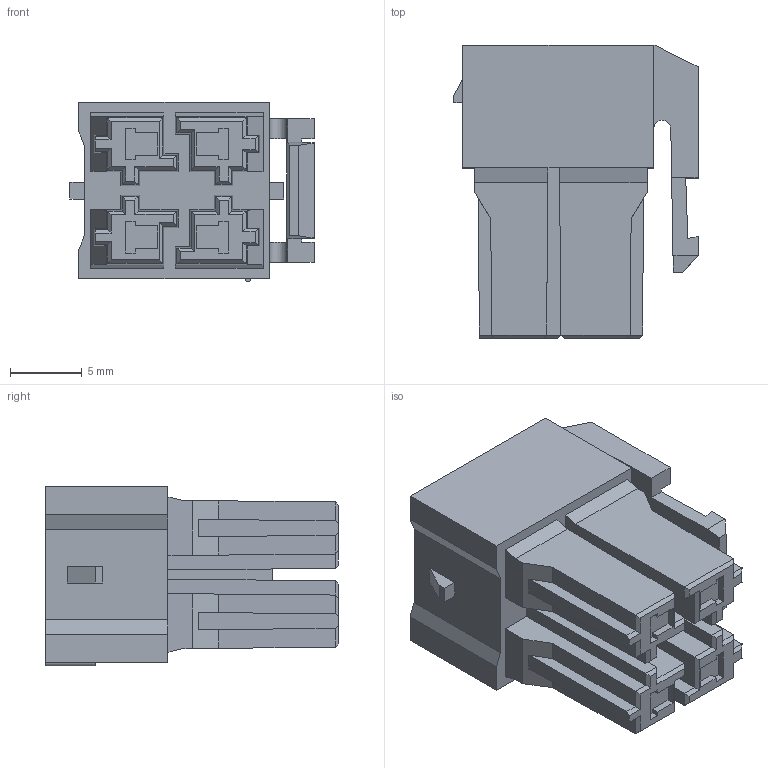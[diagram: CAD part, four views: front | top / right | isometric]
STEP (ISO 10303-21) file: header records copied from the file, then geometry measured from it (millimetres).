
FILE_DESCRIPTION (( 'STEP AP214' ), '1' );
FILE_NAME ('HC-VYH-2x2Y-05（6.50 双排 带扣孔座-HCTL）.STEP', '2024-10-19T01:49:51', ( '' ), ( '' ), 'SwSTEP 2.0', 'SolidWorks 2022', '' );
FILE_SCHEMA (( 'AUTOMOTIVE_DESIGN' ));
Length unit declared in the file: millimetre
Products named in the file (1): HC-VYH-2x2Y-05（6.50 双排 带扣孔座-HCTL）
Bounding box: 17 x 20.4 x 12.51 mm (x, y, z)
Volume: 2344.8 mm3; surface area: 2087.5 mm2
Topology: 1 solids, 1 shells, 294 faces, 756 edges, 480 vertices
Faces by surface type: plane 291, cylinder 3
Entity records: 8688 total; most frequent: CARTESIAN_POINT 1531, ORIENTED_EDGE 1512, DIRECTION 1352, EDGE_CURVE 756, LINE 750, VECTOR 750, VERTEX_POINT 480, EDGE_LOOP 312
